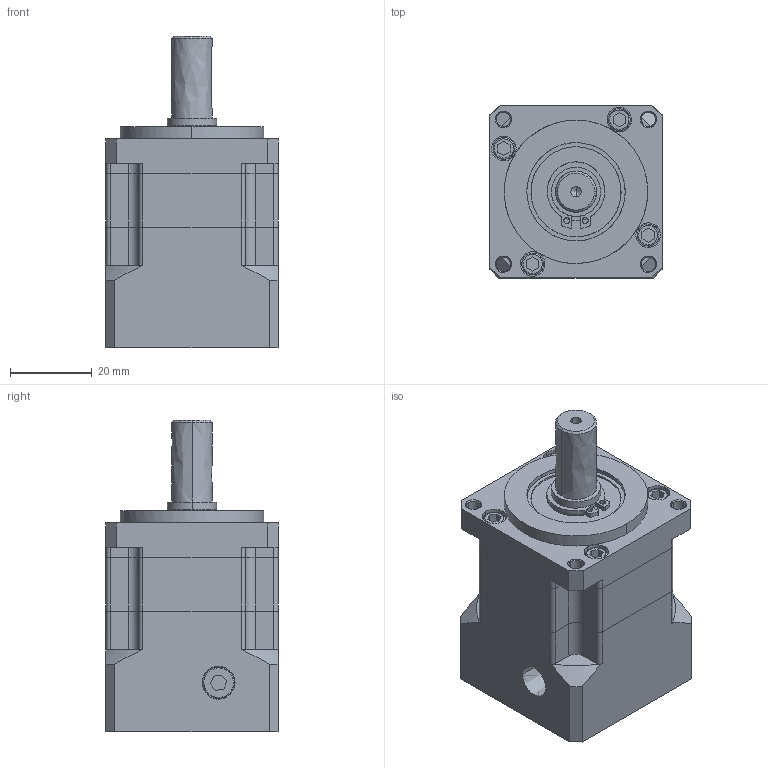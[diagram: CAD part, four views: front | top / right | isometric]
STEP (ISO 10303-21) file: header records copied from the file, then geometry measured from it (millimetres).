
FILE_DESCRIPTION (( 'STEP AP214' ), '1' );
FILE_NAME ('42SPX-(4-10)(三协).STEP', '2021-12-04T02:56:06', ( '微软用户' ), ( '微软中国' ), 'SwSTEP 2.0', 'SolidWorks 2020', '' );
FILE_SCHEMA (( 'AUTOMOTIVE_DESIGN' ));
Length unit declared in the file: millimetre
Products named in the file (9): 42SPX-(4-10)(三协); ABF42齿圈-N1.igs; 6901RS.igs; M4内六角螺丝头 - 副本.igs; ABF42-NN.igs; SS输入轴.igs; PS42-L1MB.igs; ps42綴楊擘M4怢湛.igs; M3囀鞠褒蹟佪芛.igs
Assembly tree (12 placements, depth 3):
  42SPX-(4-10)(三协)
    PS42-L1MB.igs
      ABF42齿圈-N1.igs
      ABF42-NN.igs
      ps42綴楊擘M4怢湛.igs
      6901RS.igs
      SS输入轴.igs
      M3囀鞠褒蹟佪芛.igs  x4
      M4内六角螺丝头 - 副本.igs  x2
Bounding box: 42 x 42 x 76.1 mm (x, y, z)
Volume: 46821.1 mm3; surface area: 33071.2 mm2
Topology: 10 solids, 22 shells, 461 faces, 1149 edges, 747 vertices
Faces by surface type: bspline 461
Entity records: 17296 total; most frequent: CARTESIAN_POINT 10767, ORIENTED_EDGE 2006, EDGE_CURVE 1027, B_SPLINE_CURVE_WITH_KNOTS 755, VERTEX_POINT 675, EDGE_LOOP 494, FACE_OUTER_BOUND 409, ADVANCED_FACE 409
